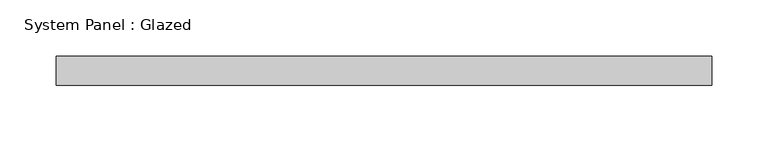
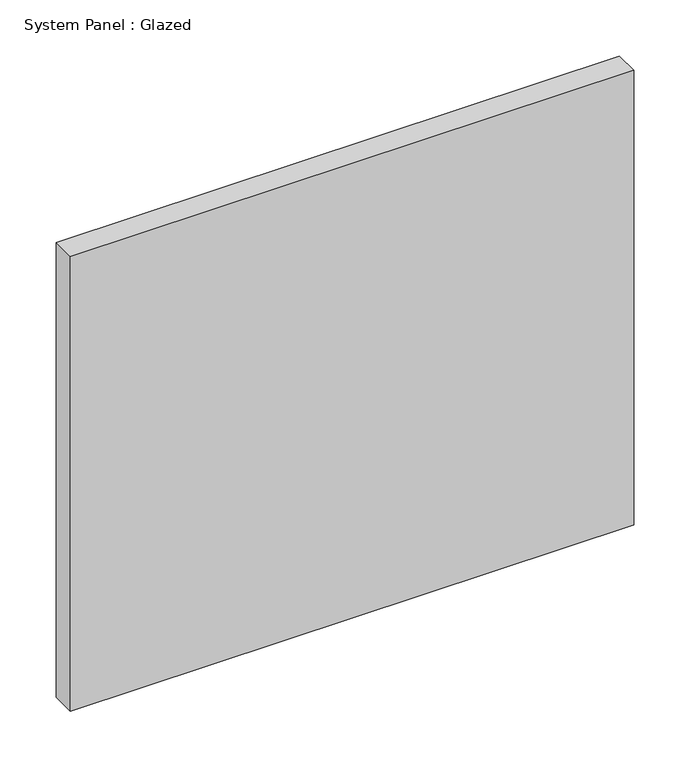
"""IFC4 building model written with IfcOpenShell, lengths in millimetres: plate geometry, System Panel : Glazed."""

from ifc_helpers import new_model, si_unit, origin, origin_with_axes, place, context, project, spatial, polyline, outline, extrude, source, transform, mapped, element, save


def system_panel_glazed_190d9c40(model_context):
    return source(origin(), model_context, "Body", "SweptSolid", [
        extrude(outline(polyline([(289.9824409, -12.7), (-289.9824409, -12.7), (-289.9824409, 12.7), (289.9824409, 12.7), (289.9824409, -12.7)])), origin_with_axes(), (0.0, 0.0, 1.0), 495.3),
    ])


if __name__ == "__main__":
    model = new_model("IFC4")
    model_context = context("Model", 3, world=origin())
    ifc_project = project(units=[si_unit("LENGTHUNIT", "METRE", prefix="MILLI")], contexts=[model_context])
    site = spatial("IfcSite", under=ifc_project)
    building = spatial("IfcBuilding", under=site)
    placement = place(None, origin())
    system_panel_glazed_shape = system_panel_glazed_190d9c40(model_context)
    element("IfcPlate", 1, ObjectType="System Panel : Glazed", at=placement, inside=building, context=model_context, shape_type="MappedRepresentation", body=[
        mapped(system_panel_glazed_shape, transform((0.0, 0.0, 0.0), x_axis=(1.0, 0.0, 0.0), y_axis=(0.0, 1.0, 0.0), z_axis=(0.0, 0.0, 1.0))),
    ])
    save(model, "model.ifc")
